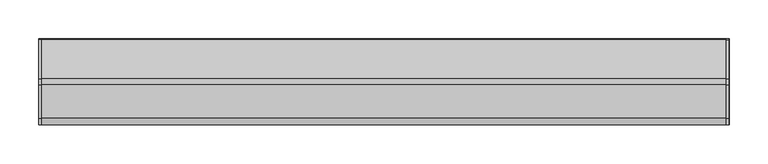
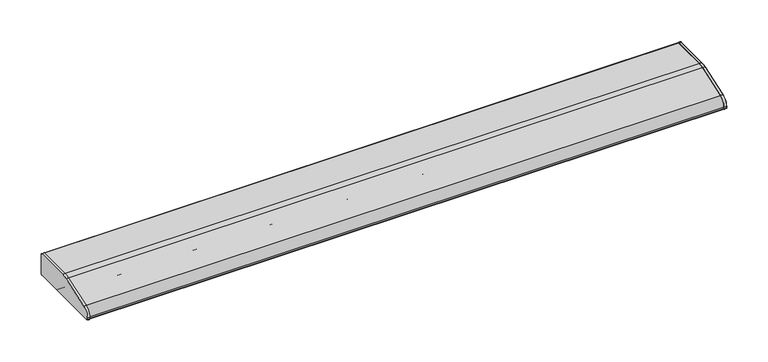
"""IFC4 building model written with IfcOpenShell, lengths in millimetres: light fixture geometry, HermanMiller_SupplementalProducts_G6136_UtilityTaskLight : AO Etho Canvas 42W."""

from ifc_helpers import new_model, si_unit, point, frame, frame_2d, origin, place, context, project, spatial, polyline, circle_curve, trimmed, segment, composite_curve, outline, extrude, source, transform, mapped, element, save


def light_fixture_06b90bd9(model_context):
    return source(origin(), model_context, "Body", "SweptSolid", [
        extrude(outline(composite_curve([segment(polyline([(53.975, 1257.3), (-53.975, 1257.3)]), True, "CONTINUOUS"), segment(trimmed(circle_curve(frame_2d((-53.975, 1258.8875)), 1.5875), [point((-53.975, 1257.3))], [point((-55.5625, 1258.8875))], False, "CARTESIAN"), True, "CONTINUOUS"), segment(polyline([(-55.5625, 1258.8875), (-55.5625, 1260.9285714)]), True, "CONTINUOUS"), segment(trimmed(circle_curve(frame_2d((-42.8625, 1260.9285714)), 12.7), [point((-55.5625, 1260.9285714))], [point((-46.9814189, 1272.9420849))], False, "CARTESIAN"), True, "CONTINUOUS"), segment(polyline([(-46.9814189, 1272.9420849), (-4.0045045, 1287.677027)]), True, "CONTINUOUS"), segment(trimmed(circle_curve(frame_2d((4.2333333, 1263.65)), 25.4), [point((-4.0045045, 1287.677027))], [point((4.2333333, 1289.05))], False, "CARTESIAN"), True, "CONTINUOUS"), segment(polyline([(4.2333333, 1289.05), (53.975, 1289.05)]), True, "CONTINUOUS"), segment(trimmed(circle_curve(frame_2d((53.975, 1287.4625)), 1.5875), [point((53.975, 1289.05))], [point((55.5625, 1287.4625))], False, "CARTESIAN"), True, "CONTINUOUS"), segment(polyline([(55.5625, 1287.4625), (55.5625, 1258.8875)]), True, "CONTINUOUS"), segment(trimmed(circle_curve(frame_2d((53.975, 1258.8875)), 1.5875), [point((55.5625, 1258.8875))], [point((53.975, 1257.3))], False, "CARTESIAN"), True, "CONTINUOUS")], self_intersect=False)), frame((441.833, 0.0, 0.0), z_axis=(1.0, 0.0, 0.0), x_axis=(0.0, 1.0, 0.0)), (0.0, 0.0, 1.0), 3.175),
        extrude(outline(composite_curve([segment(trimmed(circle_curve(frame_2d((53.975, 1287.4625)), 1.5875), [point((53.975, 1289.05))], [point((55.5625, 1287.4625))], False, "CARTESIAN"), True, "CONTINUOUS"), segment(polyline([(55.5625, 1287.4625), (55.5625, 1258.8875)]), True, "CONTINUOUS"), segment(trimmed(circle_curve(frame_2d((53.975, 1258.8875)), 1.5875), [point((55.5625, 1258.8875))], [point((53.975, 1257.3))], False, "CARTESIAN"), True, "CONTINUOUS"), segment(polyline([(53.975, 1257.3), (-53.975, 1257.3)]), True, "CONTINUOUS"), segment(trimmed(circle_curve(frame_2d((-53.975, 1258.8875)), 1.5875), [point((-53.975, 1257.3))], [point((-55.5625, 1258.8875))], False, "CARTESIAN"), True, "CONTINUOUS"), segment(polyline([(-55.5625, 1258.8875), (-55.5625, 1260.9285714)]), True, "CONTINUOUS"), segment(trimmed(circle_curve(frame_2d((-42.8625, 1260.9285714)), 12.7), [point((-55.5625, 1260.9285714))], [point((-46.9814189, 1272.9420849))], False, "CARTESIAN"), True, "CONTINUOUS"), segment(polyline([(-46.9814189, 1272.9420849), (-4.0045045, 1287.677027)]), True, "CONTINUOUS"), segment(trimmed(circle_curve(frame_2d((4.2333333, 1263.65)), 25.4), [point((-4.0045045, 1287.677027))], [point((4.2333333, 1289.05))], False, "CARTESIAN"), True, "CONTINUOUS"), segment(polyline([(4.2333333, 1289.05), (53.975, 1289.05)]), True, "CONTINUOUS")], self_intersect=False)), frame((-445.008, 0.0, 0.0), z_axis=(1.0, 0.0, 0.0), x_axis=(0.0, 1.0, 0.0)), (0.0, 0.0, 1.0), 3.175),
        extrude(outline(composite_curve([segment(polyline([(55.5625, 1287.4625), (55.5625, 1258.8875)]), True, "CONTINUOUS"), segment(trimmed(circle_curve(frame_2d((53.975, 1258.8875)), 1.5875), [point((55.5625, 1258.8875))], [point((53.975, 1257.3))], False, "CARTESIAN"), True, "CONTINUOUS"), segment(polyline([(53.975, 1257.3), (19.05, 1257.3)]), True, "CONTINUOUS"), segment(trimmed(circle_curve(frame_2d((19.05, 1258.8875)), 1.5875), [point((19.05, 1257.3))], [point((17.4625, 1258.8875))], False, "CARTESIAN"), True, "CONTINUOUS"), segment(polyline([(17.4625, 1258.8875), (17.4625, 1287.4625), (4.4979167, 1287.4625)]), True, "CONTINUOUS"), segment(trimmed(circle_curve(frame_2d((4.4979167, 1262.0625)), 25.4), [point((4.4979167, 1287.4625))], [point((-3.7399212, 1286.089527))], True, "CARTESIAN"), True, "CONTINUOUS"), segment(polyline([(-3.7399212, 1286.089527), (-37.4564189, 1274.5295849)]), True, "CONTINUOUS"), segment(trimmed(circle_curve(frame_2d((-33.3375, 1262.5160714)), 12.7), [point((-37.4564189, 1274.5295849))], [point((-46.0375, 1262.5160714))], True, "CARTESIAN"), True, "CONTINUOUS"), segment(polyline([(-46.0375, 1262.5160714), (-46.0375, 1258.8875)]), True, "CONTINUOUS"), segment(trimmed(circle_curve(frame_2d((-47.625, 1258.8875)), 1.5875), [point((-46.0375, 1258.8875))], [point((-47.625, 1257.3))], False, "CARTESIAN"), True, "CONTINUOUS"), segment(polyline([(-47.625, 1257.3), (-53.975, 1257.3)]), True, "CONTINUOUS"), segment(trimmed(circle_curve(frame_2d((-53.975, 1258.8875)), 1.5875), [point((-53.975, 1257.3))], [point((-55.5625, 1258.8875))], False, "CARTESIAN"), True, "CONTINUOUS"), segment(polyline([(-55.5625, 1258.8875), (-55.5625, 1260.9285714)]), True, "CONTINUOUS"), segment(trimmed(circle_curve(frame_2d((-42.8625, 1260.9285714)), 12.7), [point((-55.5625, 1260.9285714))], [point((-46.9814189, 1272.9420849))], False, "CARTESIAN"), True, "CONTINUOUS"), segment(polyline([(-46.9814189, 1272.9420849), (-4.0045045, 1287.677027)]), True, "CONTINUOUS"), segment(trimmed(circle_curve(frame_2d((4.2333333, 1263.65)), 25.4), [point((-4.0045045, 1287.677027))], [point((4.2333333, 1289.05))], False, "CARTESIAN"), True, "CONTINUOUS"), segment(polyline([(4.2333333, 1289.05), (53.975, 1289.05)]), True, "CONTINUOUS"), segment(trimmed(circle_curve(frame_2d((53.975, 1287.4625)), 1.5875), [point((53.975, 1289.05))], [point((55.5625, 1287.4625))], False, "CARTESIAN"), True, "CONTINUOUS")], self_intersect=False)), frame((-445.008, 0.0, 0.0), z_axis=(1.0, 0.0, 0.0), x_axis=(0.0, 1.0, 0.0)), (0.0, 0.0, 1.0), 890.4820011),
        extrude(outline(composite_curve([segment(trimmed(circle_curve(frame_2d((1.5875, 1274.7625)), 9.525), [point((-7.9375, 1274.7625))], [point((11.1125, 1274.7625))], False, "CARTESIAN"), True, "CONTINUOUS"), segment(trimmed(circle_curve(frame_2d((1.5875, 1274.7625)), 9.525), [point((11.1125, 1274.7625))], [point((-7.9375, 1274.7625))], False, "CARTESIAN"), True, "CONTINUOUS")], self_intersect=False)), frame((419.608, 0.0, 0.0), z_axis=(1.0, 0.0, 0.0), x_axis=(0.0, 1.0, 0.0)), (0.0, 0.0, 1.0), 12.7),
        extrude(outline(composite_curve([segment(trimmed(circle_curve(frame_2d((1.5875, 1274.7625)), 9.525), [point((-7.9375, 1274.7625))], [point((11.1125, 1274.7625))], False, "CARTESIAN"), True, "CONTINUOUS"), segment(trimmed(circle_curve(frame_2d((1.5875, 1274.7625)), 9.525), [point((11.1125, 1274.7625))], [point((-7.9375, 1274.7625))], False, "CARTESIAN"), True, "CONTINUOUS")], self_intersect=False)), frame((-432.308, 0.0, 0.0), z_axis=(1.0, 0.0, 0.0), x_axis=(0.0, 1.0, 0.0)), (0.0, 0.0, 1.0), 12.7),
        extrude(outline(composite_curve([segment(trimmed(circle_curve(frame_2d((1.5875, 1274.7625)), 9.525), [point((-7.9375, 1274.7625))], [point((11.1125, 1274.7625))], False, "CARTESIAN"), True, "CONTINUOUS"), segment(trimmed(circle_curve(frame_2d((1.5875, 1274.7625)), 9.525), [point((11.1125, 1274.7625))], [point((-7.9375, 1274.7625))], False, "CARTESIAN"), True, "CONTINUOUS")], self_intersect=False)), frame((-419.608, 0.0, 0.0), z_axis=(1.0, 0.0, 0.0), x_axis=(0.0, 1.0, 0.0)), (0.0, 0.0, 1.0), 839.216),
        extrude(outline(composite_curve([segment(polyline([(17.4625, 1260.475), (-46.0375, 1260.475), (-46.0375, 1262.5160714)]), True, "CONTINUOUS"), segment(trimmed(circle_curve(frame_2d((-33.3375, 1262.5160714)), 12.7), [point((-46.0375, 1262.5160714))], [point((-37.4564189, 1274.5295849))], False, "CARTESIAN"), True, "CONTINUOUS"), segment(polyline([(-37.4564189, 1274.5295849), (-3.7399212, 1286.089527)]), True, "CONTINUOUS"), segment(trimmed(circle_curve(frame_2d((4.4979167, 1262.0625)), 25.4), [point((-3.7399212, 1286.089527))], [point((4.4979167, 1287.4625))], False, "CARTESIAN"), True, "CONTINUOUS"), segment(polyline([(4.4979167, 1287.4625), (17.4625, 1287.4625), (17.4625, 1260.475)]), True, "CONTINUOUS")], self_intersect=False)), frame((432.308, 0.0, 0.0), z_axis=(1.0, 0.0, 0.0), x_axis=(0.0, 1.0, 0.0)), (0.0, 0.0, 1.0), 9.525),
        extrude(outline(composite_curve([segment(polyline([(17.4625, 1260.475), (-46.0375, 1260.475), (-46.0375, 1262.5160714)]), True, "CONTINUOUS"), segment(trimmed(circle_curve(frame_2d((-33.3375, 1262.5160714)), 12.7), [point((-46.0375, 1262.5160714))], [point((-37.4564189, 1274.5295849))], False, "CARTESIAN"), True, "CONTINUOUS"), segment(polyline([(-37.4564189, 1274.5295849), (-3.7399212, 1286.089527)]), True, "CONTINUOUS"), segment(trimmed(circle_curve(frame_2d((4.4979167, 1262.0625)), 25.4), [point((-3.7399212, 1286.089527))], [point((4.4979167, 1287.4625))], False, "CARTESIAN"), True, "CONTINUOUS"), segment(polyline([(4.4979167, 1287.4625), (17.4625, 1287.4625), (17.4625, 1260.475)]), True, "CONTINUOUS")], self_intersect=False)), frame((-441.833, 0.0, 0.0), z_axis=(1.0, 0.0, 0.0), x_axis=(0.0, 1.0, 0.0)), (0.0, 0.0, 1.0), 9.525),
    ])


if __name__ == "__main__":
    model = new_model("IFC4")
    model_context = context("Model", 3, world=origin())
    ifc_project = project(units=[si_unit("LENGTHUNIT", "METRE", prefix="MILLI")], contexts=[model_context])
    site = spatial("IfcSite", under=ifc_project)
    building = spatial("IfcBuilding", under=site)
    placement = place(None, origin())
    light_fixture_shape = light_fixture_06b90bd9(model_context)
    element("IfcLightFixture", 1, ObjectType="HermanMiller_SupplementalProducts_G6136_UtilityTaskLight : AO Etho Canvas 42W", at=placement, inside=building, context=model_context, shape_type="MappedRepresentation", body=[
        mapped(light_fixture_shape, transform((0.0, 0.0, 0.0), x_axis=(1.0, 0.0, 0.0), y_axis=(0.0, 1.0, 0.0), z_axis=(0.0, 0.0, 1.0))),
    ])
    save(model, "model.ifc")
